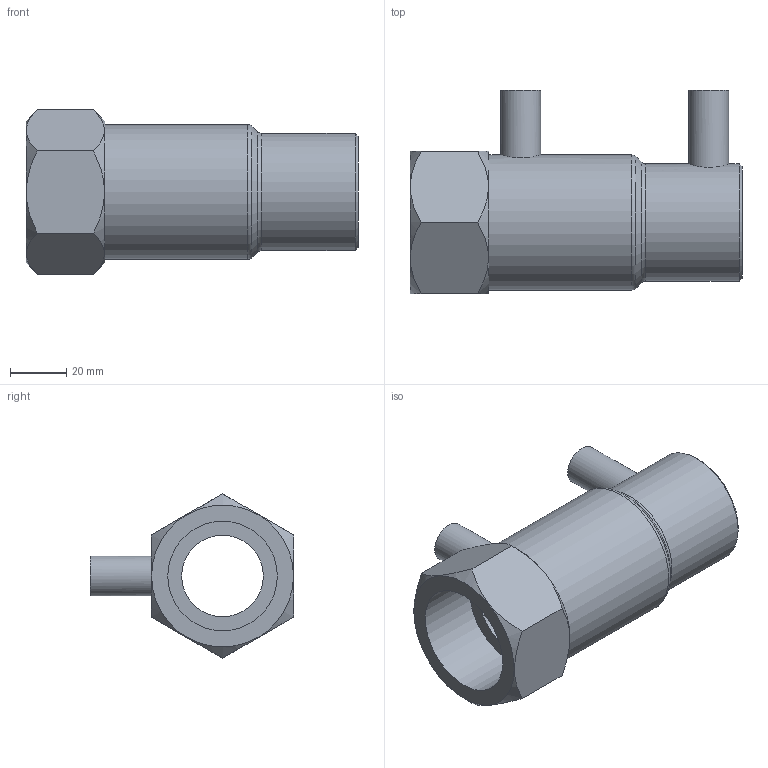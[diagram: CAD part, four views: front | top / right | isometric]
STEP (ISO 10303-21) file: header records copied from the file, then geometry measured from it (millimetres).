
FILE_DESCRIPTION(/* description */ ('Plasson Female Transition Reducer 32 x 1¼"'),/* implementation_level */ '2;1');
FILE_NAME(/* name */ 'C:\Dropbox\99-16-3568-Processing\ElectroFusion Fittings\493104-R\493104032013.ipt.stp',/* time_stamp */ '2021-03-07T20:11:17+02:00',/* author */ ('Lenora'),/* organization */ (''),/* preprocessor_version */ 'ST-DEVELOPER v17.2',/* originating_system */ 'Autodesk Inventor 2019',/* authorisation */ '');
FILE_SCHEMA (('AUTOMOTIVE_DESIGN { 1 0 10303 214 3 1 1 }'));
Length unit declared in the file: millimetre
Products named in the file (1): 493104032013
Bounding box: 118 x 72.3 x 58.43 mm (x, y, z)
Volume: 118230.2 mm3; surface area: 35061.4 mm2
Topology: 1 solids, 1 shells, 30 faces, 82 edges, 61 vertices
Faces by surface type: plane 15, cylinder 9, cone 4, torus 2
Full cylindrical faces by diameter (mm): 9.44 x2, 14.16 x2, 29 x1, 32 x1, 38.952 x1, 41.6 x1, 48 x1
Entity records: 1094 total; most frequent: CARTESIAN_POINT 270, DIRECTION 171, ORIENTED_EDGE 164, EDGE_CURVE 82, AXIS2_PLACEMENT_3D 76, VERTEX_POINT 61, CIRCLE 45, EDGE_LOOP 39
